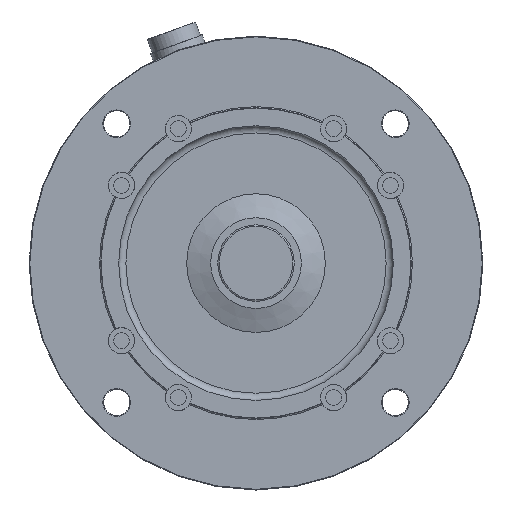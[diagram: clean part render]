
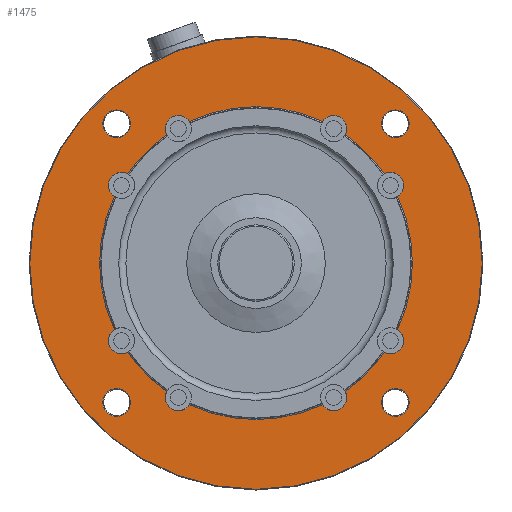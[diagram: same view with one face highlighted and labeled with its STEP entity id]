
A CAD part, front view. The second image highlights one B-rep face of the part: STEP entity #1475.
In plain terms, the highlighted planar face has unit normal (0, -1, 0).
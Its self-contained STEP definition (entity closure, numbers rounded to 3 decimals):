
#366=PLANE('',#6199);
#472=FACE_BOUND('',#2191,.T.);
#473=FACE_BOUND('',#2192,.T.);
#474=FACE_BOUND('',#2193,.T.);
#475=FACE_BOUND('',#2194,.T.);
#476=FACE_BOUND('',#2195,.T.);
#1475=ADVANCED_FACE('',(#472,#473,#474,#475,#476,#1919),#366,.T.);
#1919=FACE_OUTER_BOUND('',#2196,.T.);
#2191=EDGE_LOOP('',(#3055));
#2192=EDGE_LOOP('',(#3056));
#2193=EDGE_LOOP('',(#3057));
#2194=EDGE_LOOP('',(#3058));
#2195=EDGE_LOOP('',(#3059,#3060,#3061,#3062,#3063,#3064,#3065,#3066,#3067,
#3068,#3069,#3070,#3071,#3072,#3073,#3074));
#2196=EDGE_LOOP('',(#3075));
#3055=ORIENTED_EDGE('',*,*,#4992,.T.);
#3056=ORIENTED_EDGE('',*,*,#4993,.T.);
#3057=ORIENTED_EDGE('',*,*,#4994,.T.);
#3058=ORIENTED_EDGE('',*,*,#4995,.T.);
#3059=ORIENTED_EDGE('',*,*,#4996,.F.);
#3060=ORIENTED_EDGE('',*,*,#4935,.T.);
#3061=ORIENTED_EDGE('',*,*,#4997,.F.);
#3062=ORIENTED_EDGE('',*,*,#4998,.T.);
#3063=ORIENTED_EDGE('',*,*,#4999,.F.);
#3064=ORIENTED_EDGE('',*,*,#4976,.T.);
#3065=ORIENTED_EDGE('',*,*,#5000,.F.);
#3066=ORIENTED_EDGE('',*,*,#4956,.T.);
#3067=ORIENTED_EDGE('',*,*,#5001,.F.);
#3068=ORIENTED_EDGE('',*,*,#4981,.T.);
#3069=ORIENTED_EDGE('',*,*,#5002,.F.);
#3070=ORIENTED_EDGE('',*,*,#4969,.T.);
#3071=ORIENTED_EDGE('',*,*,#5003,.F.);
#3072=ORIENTED_EDGE('',*,*,#4947,.T.);
#3073=ORIENTED_EDGE('',*,*,#5004,.F.);
#3074=ORIENTED_EDGE('',*,*,#4959,.T.);
#3075=ORIENTED_EDGE('',*,*,#5005,.T.);
#4361=VERTEX_POINT('',#9115);
#4362=VERTEX_POINT('',#9116);
#4373=VERTEX_POINT('',#9175);
#4374=VERTEX_POINT('',#9176);
#4381=VERTEX_POINT('',#9241);
#4382=VERTEX_POINT('',#9243);
#4383=VERTEX_POINT('',#9280);
#4384=VERTEX_POINT('',#9282);
#4391=VERTEX_POINT('',#9334);
#4392=VERTEX_POINT('',#9336);
#4397=VERTEX_POINT('',#9382);
#4398=VERTEX_POINT('',#9384);
#4401=VERTEX_POINT('',#9412);
#4402=VERTEX_POINT('',#9413);
#4411=VERTEX_POINT('',#9469);
#4412=VERTEX_POINT('',#9471);
#4413=VERTEX_POINT('',#9473);
#4414=VERTEX_POINT('',#9475);
#4415=VERTEX_POINT('',#9478);
#4416=VERTEX_POINT('',#9480);
#4417=VERTEX_POINT('',#9488);
#4935=EDGE_CURVE('',#4361,#4362,#5620,.T.);
#4947=EDGE_CURVE('',#4373,#4374,#5626,.T.);
#4956=EDGE_CURVE('',#4382,#4381,#5630,.T.);
#4959=EDGE_CURVE('',#4384,#4383,#5631,.T.);
#4969=EDGE_CURVE('',#4392,#4391,#5635,.T.);
#4976=EDGE_CURVE('',#4398,#4397,#5638,.T.);
#4981=EDGE_CURVE('',#4401,#4402,#5640,.T.);
#4992=EDGE_CURVE('',#4411,#4411,#5649,.T.);
#4993=EDGE_CURVE('',#4412,#4412,#5650,.T.);
#4994=EDGE_CURVE('',#4413,#4413,#5651,.T.);
#4995=EDGE_CURVE('',#4414,#4414,#5652,.T.);
#4996=EDGE_CURVE('',#4361,#4383,#5653,.T.);
#4997=EDGE_CURVE('',#4415,#4362,#5654,.T.);
#4998=EDGE_CURVE('',#4415,#4416,#5655,.T.);
#4999=EDGE_CURVE('',#4398,#4416,#5656,.T.);
#5000=EDGE_CURVE('',#4382,#4397,#5657,.T.);
#5001=EDGE_CURVE('',#4401,#4381,#5658,.T.);
#5002=EDGE_CURVE('',#4392,#4402,#5659,.T.);
#5003=EDGE_CURVE('',#4373,#4391,#5660,.T.);
#5004=EDGE_CURVE('',#4384,#4374,#5661,.T.);
#5005=EDGE_CURVE('',#4417,#4417,#5662,.T.);
#5620=CIRCLE('',#6140,65.5);
#5626=CIRCLE('',#6149,65.5);
#5630=CIRCLE('',#6155,65.5);
#5631=CIRCLE('',#6157,65.5);
#5635=CIRCLE('',#6164,65.5);
#5638=CIRCLE('',#6169,65.5);
#5640=CIRCLE('',#6173,65.5);
#5649=CIRCLE('',#6185,5.8);
#5650=CIRCLE('',#6186,5.8);
#5651=CIRCLE('',#6187,5.8);
#5652=CIRCLE('',#6188,5.8);
#5653=CIRCLE('',#6189,5.5);
#5654=CIRCLE('',#6190,5.5);
#5655=CIRCLE('',#6191,65.5);
#5656=CIRCLE('',#6192,5.5);
#5657=CIRCLE('',#6193,5.5);
#5658=CIRCLE('',#6194,5.5);
#5659=CIRCLE('',#6195,5.5);
#5660=CIRCLE('',#6196,5.5);
#5661=CIRCLE('',#6197,5.5);
#5662=CIRCLE('',#6198,94.7);
#6140=AXIS2_PLACEMENT_3D('',#9114,#7090,#7091);
#6149=AXIS2_PLACEMENT_3D('',#9174,#7112,#7113);
#6155=AXIS2_PLACEMENT_3D('',#9242,#7126,#7127);
#6157=AXIS2_PLACEMENT_3D('',#9281,#7130,#7131);
#6164=AXIS2_PLACEMENT_3D('',#9335,#7148,#7149);
#6169=AXIS2_PLACEMENT_3D('',#9383,#7160,#7161);
#6173=AXIS2_PLACEMENT_3D('',#9411,#7170,#7171);
#6185=AXIS2_PLACEMENT_3D('',#9468,#7194,#7195);
#6186=AXIS2_PLACEMENT_3D('',#9470,#7196,#7197);
#6187=AXIS2_PLACEMENT_3D('',#9472,#7198,#7199);
#6188=AXIS2_PLACEMENT_3D('',#9474,#7200,#7201);
#6189=AXIS2_PLACEMENT_3D('',#9476,#7202,#7203);
#6190=AXIS2_PLACEMENT_3D('',#9477,#7204,#7205);
#6191=AXIS2_PLACEMENT_3D('',#9479,#7206,#7207);
#6192=AXIS2_PLACEMENT_3D('',#9481,#7208,#7209);
#6193=AXIS2_PLACEMENT_3D('',#9482,#7210,#7211);
#6194=AXIS2_PLACEMENT_3D('',#9483,#7212,#7213);
#6195=AXIS2_PLACEMENT_3D('',#9484,#7214,#7215);
#6196=AXIS2_PLACEMENT_3D('',#9485,#7216,#7217);
#6197=AXIS2_PLACEMENT_3D('',#9486,#7218,#7219);
#6198=AXIS2_PLACEMENT_3D('',#9487,#7220,#7221);
#6199=AXIS2_PLACEMENT_3D('',#9489,#7222,#7223);
#7090=DIRECTION('',(0.,1.,0.));
#7091=DIRECTION('',(0.,0.,-1.));
#7112=DIRECTION('',(0.,1.,0.));
#7113=DIRECTION('',(0.,0.,-1.));
#7126=DIRECTION('',(0.,1.,0.));
#7127=DIRECTION('',(0.,0.,-1.));
#7130=DIRECTION('',(0.,1.,0.));
#7131=DIRECTION('',(0.,0.,-1.));
#7148=DIRECTION('',(0.,1.,0.));
#7149=DIRECTION('',(0.,0.,-1.));
#7160=DIRECTION('',(0.,1.,0.));
#7161=DIRECTION('',(0.,0.,-1.));
#7170=DIRECTION('',(0.,1.,0.));
#7171=DIRECTION('',(0.,0.,-1.));
#7194=DIRECTION('',(0.,1.,0.));
#7195=DIRECTION('',(0.,0.,-1.));
#7196=DIRECTION('',(0.,1.,0.));
#7197=DIRECTION('',(0.,0.,-1.));
#7198=DIRECTION('',(0.,1.,0.));
#7199=DIRECTION('',(0.,0.,-1.));
#7200=DIRECTION('',(0.,1.,0.));
#7201=DIRECTION('',(0.,0.,-1.));
#7202=DIRECTION('',(0.,-1.,0.));
#7203=DIRECTION('',(0.,0.,-1.));
#7204=DIRECTION('',(0.,-1.,0.));
#7205=DIRECTION('',(0.,0.,-1.));
#7206=DIRECTION('',(0.,1.,0.));
#7207=DIRECTION('',(0.,0.,-1.));
#7208=DIRECTION('',(0.,-1.,0.));
#7209=DIRECTION('',(0.,0.,-1.));
#7210=DIRECTION('',(0.,-1.,0.));
#7211=DIRECTION('',(0.,0.,-1.));
#7212=DIRECTION('',(0.,-1.,0.));
#7213=DIRECTION('',(0.,0.,-1.));
#7214=DIRECTION('',(0.,-1.,0.));
#7215=DIRECTION('',(0.,0.,-1.));
#7216=DIRECTION('',(0.,-1.,0.));
#7217=DIRECTION('',(0.,0.,-1.));
#7218=DIRECTION('',(0.,-1.,0.));
#7219=DIRECTION('',(0.,0.,-1.));
#7220=DIRECTION('',(0.,-1.,0.));
#7221=DIRECTION('',(0.,0.,-1.));
#7222=DIRECTION('',(0.,-1.,0.));
#7223=DIRECTION('',(0.,0.,-1.));
#9114=CARTESIAN_POINT('',(0.,0.,0.));
#9115=CARTESIAN_POINT('',(59.272,0.,27.877));
#9116=CARTESIAN_POINT('',(59.272,0.,-27.877));
#9174=CARTESIAN_POINT('',(0.,0.,0.));
#9175=CARTESIAN_POINT('',(-27.877,0.,59.272));
#9176=CARTESIAN_POINT('',(27.877,0.,59.272));
#9241=CARTESIAN_POINT('',(-53.778,0.,-37.392));
#9242=CARTESIAN_POINT('',(0.,0.,0.));
#9243=CARTESIAN_POINT('',(-37.392,0.,-53.778));
#9280=CARTESIAN_POINT('',(53.778,0.,37.392));
#9281=CARTESIAN_POINT('',(0.,0.,0.));
#9282=CARTESIAN_POINT('',(37.392,0.,53.778));
#9334=CARTESIAN_POINT('',(-37.392,0.,53.778));
#9335=CARTESIAN_POINT('',(0.,0.,0.));
#9336=CARTESIAN_POINT('',(-53.778,0.,37.392));
#9382=CARTESIAN_POINT('',(-27.877,0.,-59.272));
#9383=CARTESIAN_POINT('',(0.,0.,0.));
#9384=CARTESIAN_POINT('',(27.877,0.,-59.272));
#9411=CARTESIAN_POINT('',(0.,0.,0.));
#9412=CARTESIAN_POINT('',(-59.272,0.,-27.877));
#9413=CARTESIAN_POINT('',(-59.272,0.,27.877));
#9468=CARTESIAN_POINT('',(-58.336,0.,-58.336));
#9469=CARTESIAN_POINT('',(-58.336,0.,-64.136));
#9470=CARTESIAN_POINT('',(58.336,0.,58.336));
#9471=CARTESIAN_POINT('',(58.336,0.,52.536));
#9472=CARTESIAN_POINT('',(-58.336,0.,58.336));
#9473=CARTESIAN_POINT('',(-58.336,0.,52.536));
#9474=CARTESIAN_POINT('',(58.336,0.,-58.336));
#9475=CARTESIAN_POINT('',(58.336,0.,-64.136));
#9476=CARTESIAN_POINT('',(56.292,0.,32.5));
#9477=CARTESIAN_POINT('',(56.292,0.,-32.5));
#9478=CARTESIAN_POINT('',(53.778,0.,-37.392));
#9479=CARTESIAN_POINT('',(0.,0.,0.));
#9480=CARTESIAN_POINT('',(37.392,0.,-53.778));
#9481=CARTESIAN_POINT('',(32.5,0.,-56.292));
#9482=CARTESIAN_POINT('',(-32.5,0.,-56.292));
#9483=CARTESIAN_POINT('',(-56.292,0.,-32.5));
#9484=CARTESIAN_POINT('',(-56.292,0.,32.5));
#9485=CARTESIAN_POINT('',(-32.5,0.,56.292));
#9486=CARTESIAN_POINT('',(32.5,0.,56.292));
#9487=CARTESIAN_POINT('',(0.,0.,0.));
#9488=CARTESIAN_POINT('',(0.,0.,-94.7));
#9489=CARTESIAN_POINT('',(0.,0.,0.));
